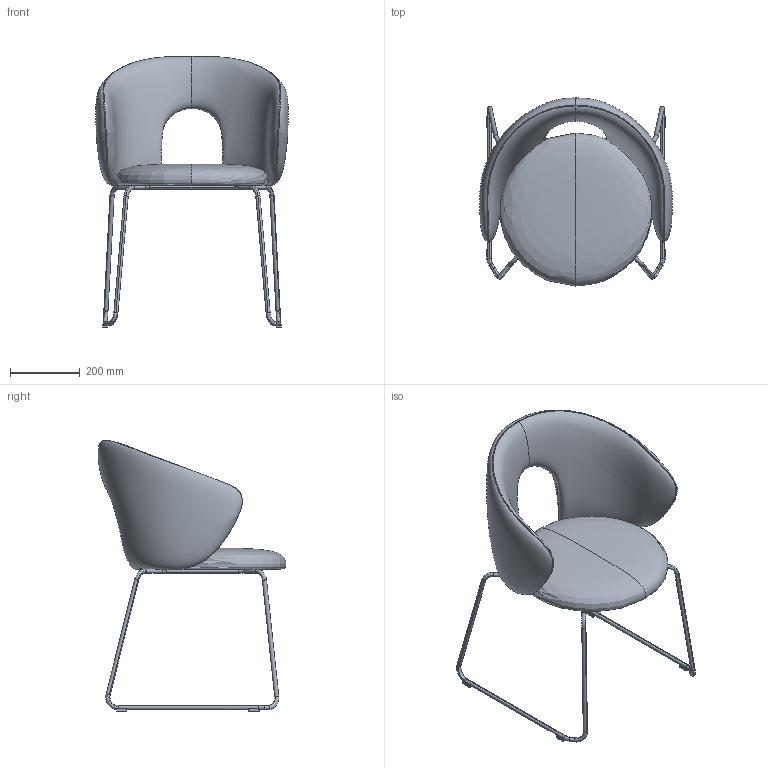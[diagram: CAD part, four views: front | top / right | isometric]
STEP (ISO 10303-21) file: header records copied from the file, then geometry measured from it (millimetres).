
FILE_DESCRIPTION(/* description */ (''),/* implementation_level */ '2;1');
FILE_NAME(/* name */ 'Paulin_SLP_PabloReganoStudio',/* time_stamp */ '2026-04-02T07:29:32+02:00',/* author */ (''),/* organization */ (''),/* preprocessor_version */ 'ST-DEVELOPER v19.2',/* originating_system */ 'Rhino 8.5',/* authorisation */ '');
FILE_SCHEMA (('AP242_MANAGED_MODEL_BASED_3D_ENGINEERING_MIM_LF { 1 0 10303 442 3 1 4 }'));
Length unit declared in the file: millimetre
Products named in the file (1): Document
Bounding box: 553.96 x 540.25 x 779.86 mm (x, y, z)
Volume: 7597652 mm3; surface area: 1594439.1 mm2
Topology: 1 solids, 184 shells, 214 faces, 852 edges, 788 vertices
Faces by surface type: bspline 92, cylinder 90, plane 32
Entity records: 114776 total; most frequent: CARTESIAN_POINT 108553, ORIENTED_EDGE 910, EDGE_CURVE 848, DIRECTION 832, VERTEX_POINT 788, AXIS2_PLACEMENT_3D 477, TRIMMED_CURVE 352, CIRCLE 352
